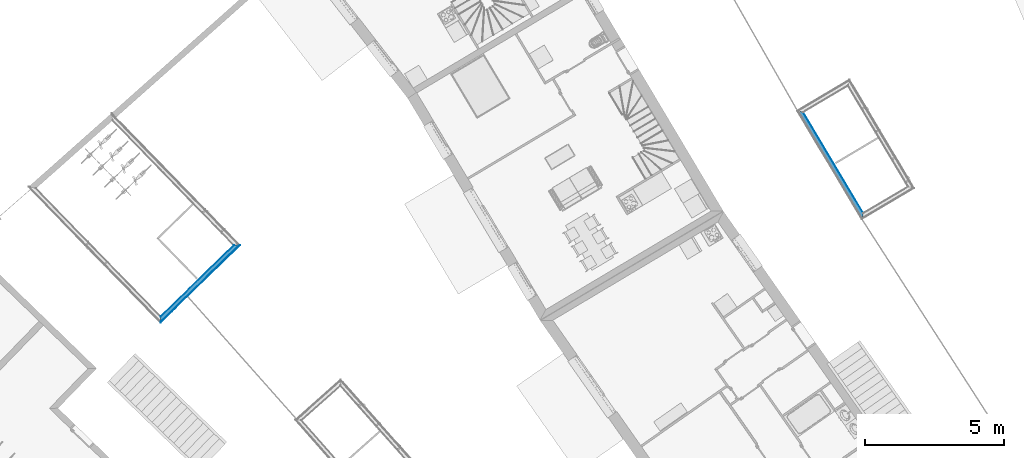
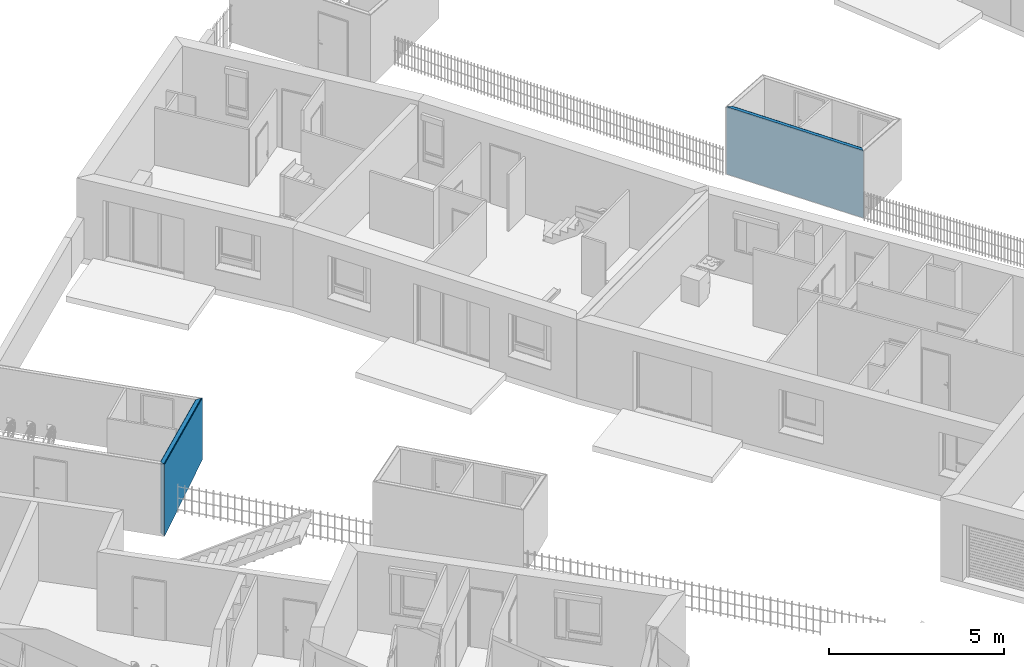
# One storey, part 123 of 195: 6 building element parts, 2 elements without a shape of their own.
"""IFC2X3 building model written with IfcOpenShell, lengths in metres."""

from ifc_helpers import new_model, entity, si_unit, converted_unit, derived_unit, money_unit, direction, frame, origin_with_axes, place, context, subcontext, project, spatial, polyline, outline, extrude, boolean, faceted_brep, material, type_object, element, aggregate, save


model = new_model("IFC2X3")

# Units and contexts
model_context = context("Model", 3, precision=1e-05, world=origin_with_axes(), true_north=direction((0.0, 1.0)))
body_context = subcontext(model_context, "Body", "Model", "MODEL_VIEW")
ifc_project = project(units=[si_unit("LENGTHUNIT", "METRE"), si_unit("AREAUNIT", "SQUARE_METRE"), si_unit("VOLUMEUNIT", "CUBIC_METRE"), converted_unit("PLANEANGLEUNIT", "DEGREE", entity("IfcPlaneAngleMeasure", 0.0174532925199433), si_unit("PLANEANGLEUNIT", "RADIAN"), dimensions=[0, 0, 0, 0, 0, 0, 0]), money_unit("CHF"), converted_unit("TIMEUNIT", "Year", entity("IfcTimeMeasure", 31557600.0), si_unit("TIMEUNIT", "SECOND"), dimensions=[0, 0, 1, 0, 0, 0, 0]), si_unit("MASSUNIT", "GRAM", prefix="KILO"), si_unit("THERMODYNAMICTEMPERATUREUNIT", "DEGREE_CELSIUS"), si_unit("LUMINOUSINTENSITYUNIT", "LUMEN"), si_unit("ENERGYUNIT", "JOULE", prefix="MEGA"), derived_unit("THERMALCONDUCTANCEUNIT", [(si_unit("POWERUNIT", "WATT"), 1), (si_unit("LENGTHUNIT", "METRE"), -1), (si_unit("THERMODYNAMICTEMPERATUREUNIT", "KELVIN"), -1)]), derived_unit("SPECIFICHEATCAPACITYUNIT", [(si_unit("ENERGYUNIT", "JOULE"), 1), (si_unit("MASSUNIT", "GRAM", prefix="KILO"), -1), (si_unit("THERMODYNAMICTEMPERATUREUNIT", "KELVIN"), -1)]), derived_unit("MASSDENSITYUNIT", [(si_unit("MASSUNIT", "GRAM", prefix="KILO"), 1), (si_unit("VOLUMEUNIT", "CUBIC_METRE"), -1)])], contexts=[model_context])

# Site, building, storey
site_placement = place(None, origin_with_axes())
site = spatial("IfcSite", under=ifc_project, at=site_placement, Name="Site", CompositionType="ELEMENT")
building_placement = place(site_placement, origin_with_axes())
building = spatial("IfcBuilding", under=site, at=building_placement, Name="Bâtiment", CompositionType="ELEMENT")
storey_placement = place(building_placement, origin_with_axes())
storey = spatial("IfcBuildingStorey", under=building, at=storey_placement, Name="rdc", CompositionType="ELEMENT", Elevation=0.0)

# Wall, building element parts
wall_type = type_object("IfcWallType", Name="1/Ossatur bois 160   non isol 160", PredefinedType="NOTDEFINED")
wall_1_placement = place(storey_placement, frame((9532.400157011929, -1052.50594906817, 57.7), z_axis=(0.0, 0.0, 1.0), x_axis=(-0.7170210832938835, -0.6970514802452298, 0.0)))
wall_1 = element("IfcWall", 1, at=wall_1_placement, inside=storey, type_object=wall_type, Name="Mur-110")
ifc_material_1 = material(Name="Sans Trame 296962763")
building_element_part_1_placement = place(wall_1_placement, origin_with_axes())
building_element_part_1 = element("IfcBuildingElementPart", 2, at=building_element_part_1_placement, material=ifc_material_1, Name="Sans Trame 296962763", context=body_context, shape_type="CSG", body=[
    boolean("DIFFERENCE", boolean("DIFFERENCE", boolean("DIFFERENCE", boolean("DIFFERENCE", extrude(outline(polyline([(0.0, -0.1599999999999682), (3.999999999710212, -0.1600000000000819), (3.999999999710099, -0.1500000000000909), (0.0, -0.1499999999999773), (0.0, -0.1599999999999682)])), origin_with_axes(), (0.0, 0.0, 1.0), 2.75), faceted_brep([(3.84999999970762, -0.1500000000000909, 0.0), (3.84999999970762, -0.1500000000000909, 2.501066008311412), (0.1500000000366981, -0.1499999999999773, 2.177357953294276), (0.1500000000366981, -0.1499999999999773, 0.0), (0.0, -0.1499999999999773, 0.0), (0.0, -0.1499999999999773, 2.75), (3.999999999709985, -0.1500000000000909, 2.75), (3.999999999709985, -0.1500000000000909, 0.0), (3.83999999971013, -0.1599999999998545, 0.0), (3.83999999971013, -0.1599999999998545, 2.500191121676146), (0.1600000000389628, -0.1599999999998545, 2.178232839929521), (0.1600000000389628, -0.1599999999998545, 0.0), (0.0, -0.1599999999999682, 0.0), (0.0, -0.1599999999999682, 2.75), (3.999999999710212, -0.1600000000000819, 2.75), (3.999999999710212, -0.1600000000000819, 0.0)], [[[0, 1, 2, 3, 4, 5, 6, 7]], [[8, 9, 1, 0]], [[2, 1, 9, 10]], [[3, 2, 10, 11]], [[3, 11, 12, 4]], [[5, 4, 12, 13]], [[5, 13, 14, 6]], [[14, 15, 7, 6]], [[8, 0, 7, 15]], [[9, 8, 15, 14, 13, 12, 11, 10]]])), faceted_brep([(3.969999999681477, -0.0300000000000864, 0.0), (3.969999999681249, -0.02999999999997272, 2.51156464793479), (0.03000000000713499, -0.02999999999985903, 2.166859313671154), (0.03000000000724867, -0.02999999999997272, 0.0), (0.0, -0.02999999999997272, 0.0), (0.0, -0.02999999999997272, 2.75), (3.999999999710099, -0.02999999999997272, 2.75), (3.999999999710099, -0.02999999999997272, 0.0), (3.84999999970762, -0.1500000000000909, 0.0), (3.84999999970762, -0.1500000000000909, 2.501066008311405), (0.1500000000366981, -0.1499999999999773, 2.177357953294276), (0.1500000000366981, -0.1499999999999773, 0.0), (0.0, -0.1499999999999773, 0.0), (0.0, -0.1499999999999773, 2.75), (3.999999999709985, -0.1500000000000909, 2.75), (3.999999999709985, -0.1500000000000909, 0.0)], [[[0, 1, 2, 3, 4, 5, 6, 7]], [[8, 9, 1, 0]], [[2, 1, 9, 10]], [[3, 2, 10, 11]], [[3, 11, 12, 4]], [[5, 4, 12, 13]], [[5, 13, 14, 6]], [[14, 15, 7, 6]], [[8, 0, 7, 15]], [[9, 8, 15, 14, 13, 12, 11, 10]]])), faceted_brep([(3.989999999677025, -0.009999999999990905, 0.0), (3.989999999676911, -0.01000000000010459, 2.513314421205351), (0.01000000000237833, -0.009999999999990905, 2.16510954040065), (0.01000000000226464, -0.009999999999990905, 0.0), (0.0, -0.009999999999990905, 0.0), (0.0, -0.009999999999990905, 2.75), (3.999999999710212, -0.009999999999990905, 2.75), (3.999999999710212, -0.009999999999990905, 0.0), (3.969999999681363, -0.02999999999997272, 0.0), (3.969999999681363, -0.02999999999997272, 2.511564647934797), (0.03000000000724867, -0.02999999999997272, 2.166859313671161), (0.03000000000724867, -0.02999999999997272, 0.0), (0.0, -0.02999999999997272, 0.0), (0.0, -0.02999999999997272, 2.75), (3.999999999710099, -0.02999999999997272, 2.75), (3.999999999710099, -0.02999999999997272, 0.0)], [[[0, 1, 2, 3, 4, 5, 6, 7]], [[8, 9, 1, 0]], [[2, 1, 9, 10]], [[3, 2, 10, 11]], [[3, 11, 12, 4]], [[5, 4, 12, 13]], [[5, 13, 14, 6]], [[14, 15, 7, 6]], [[8, 0, 7, 15]], [[9, 8, 15, 14, 13, 12, 11, 10]]])), faceted_brep([(3.999999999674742, 0.0, 2.514189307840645), (0.0, 0.0, 2.164234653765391), (0.0, 0.0, 2.75), (3.999999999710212, 0.0, 2.75), (3.989999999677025, -0.009999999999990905, 2.513314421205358), (0.01000000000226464, -0.009999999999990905, 2.16510954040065), (0.0, 0.0, 0.0), (0.0, -0.009999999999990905, 0.0), (0.0, -0.009999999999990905, 2.75), (3.999999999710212, -0.009999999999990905, 2.75), (3.999999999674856, 0.0, 0.0), (3.999999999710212, -0.009999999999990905, 0.0), (3.989999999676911, -0.009999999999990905, 0.0), (0.01000000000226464, -0.009999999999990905, 0.0)], [[[0, 1, 2, 3]], [[1, 0, 4, 5]], [[1, 6, 7, 8, 2]], [[2, 8, 9, 3]], [[10, 0, 3, 9, 11]], [[12, 4, 0, 10]], [[4, 12, 11, 9, 8, 7, 13, 5]], [[6, 1, 5, 13]], [[6, 13, 7]], [[12, 10, 11]]])),
])
ifc_material_2 = material(Name="Lame d'air 323202302")
building_element_part_2_placement = place(wall_1_placement, origin_with_axes())
building_element_part_2 = element("IfcBuildingElementPart", 3, at=building_element_part_2_placement, material=ifc_material_2, Name="Lame d'air 323202302", context=body_context, shape_type="CSG", body=[
    boolean("DIFFERENCE", boolean("DIFFERENCE", boolean("DIFFERENCE", boolean("DIFFERENCE", extrude(outline(polyline([(0.0, -0.02999999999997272), (3.999999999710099, -0.02999999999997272), (3.999999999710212, -0.009999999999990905), (0.0, -0.009999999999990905), (0.0, -0.02999999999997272)])), origin_with_axes(), (0.0, 0.0, 1.0), 2.75), faceted_brep([(3.84999999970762, -0.1500000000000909, 0.0), (3.84999999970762, -0.1500000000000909, 2.501066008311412), (0.1500000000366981, -0.1499999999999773, 2.177357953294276), (0.1500000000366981, -0.1499999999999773, 0.0), (0.0, -0.1499999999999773, 0.0), (0.0, -0.1499999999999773, 2.75), (3.999999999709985, -0.1500000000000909, 2.75), (3.999999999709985, -0.1500000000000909, 0.0), (3.83999999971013, -0.1599999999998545, 0.0), (3.83999999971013, -0.1599999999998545, 2.500191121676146), (0.1600000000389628, -0.1599999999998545, 2.178232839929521), (0.1600000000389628, -0.1599999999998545, 0.0), (0.0, -0.1599999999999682, 0.0), (0.0, -0.1599999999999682, 2.75), (3.999999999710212, -0.1600000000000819, 2.75), (3.999999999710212, -0.1600000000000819, 0.0)], [[[0, 1, 2, 3, 4, 5, 6, 7]], [[8, 9, 1, 0]], [[2, 1, 9, 10]], [[3, 2, 10, 11]], [[3, 11, 12, 4]], [[5, 4, 12, 13]], [[5, 13, 14, 6]], [[14, 15, 7, 6]], [[8, 0, 7, 15]], [[9, 8, 15, 14, 13, 12, 11, 10]]])), faceted_brep([(3.969999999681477, -0.0300000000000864, 0.0), (3.969999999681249, -0.02999999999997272, 2.51156464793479), (0.03000000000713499, -0.02999999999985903, 2.166859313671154), (0.03000000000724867, -0.02999999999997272, 0.0), (0.0, -0.02999999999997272, 0.0), (0.0, -0.02999999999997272, 2.75), (3.999999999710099, -0.02999999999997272, 2.75), (3.999999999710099, -0.02999999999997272, 0.0), (3.84999999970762, -0.1500000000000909, 0.0), (3.84999999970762, -0.1500000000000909, 2.501066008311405), (0.1500000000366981, -0.1499999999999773, 2.177357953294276), (0.1500000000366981, -0.1499999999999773, 0.0), (0.0, -0.1499999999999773, 0.0), (0.0, -0.1499999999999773, 2.75), (3.999999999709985, -0.1500000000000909, 2.75), (3.999999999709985, -0.1500000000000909, 0.0)], [[[0, 1, 2, 3, 4, 5, 6, 7]], [[8, 9, 1, 0]], [[2, 1, 9, 10]], [[3, 2, 10, 11]], [[3, 11, 12, 4]], [[5, 4, 12, 13]], [[5, 13, 14, 6]], [[14, 15, 7, 6]], [[8, 0, 7, 15]], [[9, 8, 15, 14, 13, 12, 11, 10]]])), faceted_brep([(3.989999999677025, -0.009999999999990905, 0.0), (3.989999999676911, -0.01000000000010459, 2.513314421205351), (0.01000000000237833, -0.009999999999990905, 2.16510954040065), (0.01000000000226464, -0.009999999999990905, 0.0), (0.0, -0.009999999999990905, 0.0), (0.0, -0.009999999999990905, 2.75), (3.999999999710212, -0.009999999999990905, 2.75), (3.999999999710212, -0.009999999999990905, 0.0), (3.969999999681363, -0.02999999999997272, 0.0), (3.969999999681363, -0.02999999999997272, 2.511564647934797), (0.03000000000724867, -0.02999999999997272, 2.166859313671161), (0.03000000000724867, -0.02999999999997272, 0.0), (0.0, -0.02999999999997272, 0.0), (0.0, -0.02999999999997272, 2.75), (3.999999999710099, -0.02999999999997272, 2.75), (3.999999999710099, -0.02999999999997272, 0.0)], [[[0, 1, 2, 3, 4, 5, 6, 7]], [[8, 9, 1, 0]], [[2, 1, 9, 10]], [[3, 2, 10, 11]], [[3, 11, 12, 4]], [[5, 4, 12, 13]], [[5, 13, 14, 6]], [[14, 15, 7, 6]], [[8, 0, 7, 15]], [[9, 8, 15, 14, 13, 12, 11, 10]]])), faceted_brep([(3.999999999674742, 0.0, 2.514189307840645), (0.0, 0.0, 2.164234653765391), (0.0, 0.0, 2.75), (3.999999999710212, 0.0, 2.75), (3.989999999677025, -0.009999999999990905, 2.513314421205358), (0.01000000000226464, -0.009999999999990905, 2.16510954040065), (0.0, 0.0, 0.0), (0.0, -0.009999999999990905, 0.0), (0.0, -0.009999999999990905, 2.75), (3.999999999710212, -0.009999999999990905, 2.75), (3.999999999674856, 0.0, 0.0), (3.999999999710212, -0.009999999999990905, 0.0), (3.989999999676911, -0.009999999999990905, 0.0), (0.01000000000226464, -0.009999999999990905, 0.0)], [[[0, 1, 2, 3]], [[1, 0, 4, 5]], [[1, 6, 7, 8, 2]], [[2, 8, 9, 3]], [[10, 0, 3, 9, 11]], [[12, 4, 0, 10]], [[4, 12, 11, 9, 8, 7, 13, 5]], [[6, 1, 5, 13]], [[6, 13, 7]], [[12, 10, 11]]])),
])
ifc_material_3 = material(Name="Lame d'air 275581439")
building_element_part_3_placement = place(wall_1_placement, origin_with_axes())
building_element_part_3 = element("IfcBuildingElementPart", 4, at=building_element_part_3_placement, material=ifc_material_3, Name="Lame d'air 275581439", context=body_context, shape_type="CSG", body=[
    boolean("DIFFERENCE", boolean("DIFFERENCE", boolean("DIFFERENCE", boolean("DIFFERENCE", extrude(outline(polyline([(0.0, -0.1499999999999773), (3.999999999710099, -0.1500000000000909), (3.999999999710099, -0.02999999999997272), (0.0, -0.02999999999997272), (0.0, -0.1499999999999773)])), origin_with_axes(), (0.0, 0.0, 1.0), 2.75), faceted_brep([(3.84999999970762, -0.1500000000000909, 0.0), (3.84999999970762, -0.1500000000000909, 2.501066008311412), (0.1500000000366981, -0.1499999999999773, 2.177357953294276), (0.1500000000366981, -0.1499999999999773, 0.0), (0.0, -0.1499999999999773, 0.0), (0.0, -0.1499999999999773, 2.75), (3.999999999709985, -0.1500000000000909, 2.75), (3.999999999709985, -0.1500000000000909, 0.0), (3.83999999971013, -0.1599999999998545, 0.0), (3.83999999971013, -0.1599999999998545, 2.500191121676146), (0.1600000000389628, -0.1599999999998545, 2.178232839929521), (0.1600000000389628, -0.1599999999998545, 0.0), (0.0, -0.1599999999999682, 0.0), (0.0, -0.1599999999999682, 2.75), (3.999999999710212, -0.1600000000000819, 2.75), (3.999999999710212, -0.1600000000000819, 0.0)], [[[0, 1, 2, 3, 4, 5, 6, 7]], [[8, 9, 1, 0]], [[2, 1, 9, 10]], [[3, 2, 10, 11]], [[3, 11, 12, 4]], [[5, 4, 12, 13]], [[5, 13, 14, 6]], [[14, 15, 7, 6]], [[8, 0, 7, 15]], [[9, 8, 15, 14, 13, 12, 11, 10]]])), faceted_brep([(3.969999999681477, -0.0300000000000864, 0.0), (3.969999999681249, -0.02999999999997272, 2.51156464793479), (0.03000000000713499, -0.02999999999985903, 2.166859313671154), (0.03000000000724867, -0.02999999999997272, 0.0), (0.0, -0.02999999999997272, 0.0), (0.0, -0.02999999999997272, 2.75), (3.999999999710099, -0.02999999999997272, 2.75), (3.999999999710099, -0.02999999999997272, 0.0), (3.84999999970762, -0.1500000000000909, 0.0), (3.84999999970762, -0.1500000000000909, 2.501066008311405), (0.1500000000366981, -0.1499999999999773, 2.177357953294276), (0.1500000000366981, -0.1499999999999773, 0.0), (0.0, -0.1499999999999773, 0.0), (0.0, -0.1499999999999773, 2.75), (3.999999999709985, -0.1500000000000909, 2.75), (3.999999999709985, -0.1500000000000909, 0.0)], [[[0, 1, 2, 3, 4, 5, 6, 7]], [[8, 9, 1, 0]], [[2, 1, 9, 10]], [[3, 2, 10, 11]], [[3, 11, 12, 4]], [[5, 4, 12, 13]], [[5, 13, 14, 6]], [[14, 15, 7, 6]], [[8, 0, 7, 15]], [[9, 8, 15, 14, 13, 12, 11, 10]]])), faceted_brep([(3.989999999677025, -0.009999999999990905, 0.0), (3.989999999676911, -0.01000000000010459, 2.513314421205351), (0.01000000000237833, -0.009999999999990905, 2.16510954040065), (0.01000000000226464, -0.009999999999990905, 0.0), (0.0, -0.009999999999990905, 0.0), (0.0, -0.009999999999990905, 2.75), (3.999999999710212, -0.009999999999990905, 2.75), (3.999999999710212, -0.009999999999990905, 0.0), (3.969999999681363, -0.02999999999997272, 0.0), (3.969999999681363, -0.02999999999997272, 2.511564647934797), (0.03000000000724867, -0.02999999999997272, 2.166859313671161), (0.03000000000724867, -0.02999999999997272, 0.0), (0.0, -0.02999999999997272, 0.0), (0.0, -0.02999999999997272, 2.75), (3.999999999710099, -0.02999999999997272, 2.75), (3.999999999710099, -0.02999999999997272, 0.0)], [[[0, 1, 2, 3, 4, 5, 6, 7]], [[8, 9, 1, 0]], [[2, 1, 9, 10]], [[3, 2, 10, 11]], [[3, 11, 12, 4]], [[5, 4, 12, 13]], [[5, 13, 14, 6]], [[14, 15, 7, 6]], [[8, 0, 7, 15]], [[9, 8, 15, 14, 13, 12, 11, 10]]])), faceted_brep([(3.999999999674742, 0.0, 2.514189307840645), (0.0, 0.0, 2.164234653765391), (0.0, 0.0, 2.75), (3.999999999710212, 0.0, 2.75), (3.989999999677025, -0.009999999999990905, 2.513314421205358), (0.01000000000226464, -0.009999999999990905, 2.16510954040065), (0.0, 0.0, 0.0), (0.0, -0.009999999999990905, 0.0), (0.0, -0.009999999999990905, 2.75), (3.999999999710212, -0.009999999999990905, 2.75), (3.999999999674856, 0.0, 0.0), (3.999999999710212, -0.009999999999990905, 0.0), (3.989999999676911, -0.009999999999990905, 0.0), (0.01000000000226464, -0.009999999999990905, 0.0)], [[[0, 1, 2, 3]], [[1, 0, 4, 5]], [[1, 6, 7, 8, 2]], [[2, 8, 9, 3]], [[10, 0, 3, 9, 11]], [[12, 4, 0, 10]], [[4, 12, 11, 9, 8, 7, 13, 5]], [[6, 1, 5, 13]], [[6, 13, 7]], [[12, 10, 11]]])),
])
ifc_material_4 = material(Name="Hachure solide 323202122")
building_element_part_4_placement = place(wall_1_placement, origin_with_axes())
building_element_part_4 = element("IfcBuildingElementPart", 5, at=building_element_part_4_placement, material=ifc_material_4, Name="Hachure solide 323202122", context=body_context, shape_type="CSG", body=[
    boolean("DIFFERENCE", boolean("DIFFERENCE", boolean("DIFFERENCE", boolean("DIFFERENCE", extrude(outline(polyline([(0.0, -0.009999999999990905), (3.999999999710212, -0.009999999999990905), (3.999999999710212, 0.0), (0.0, 0.0), (0.0, -0.009999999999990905)])), origin_with_axes(), (0.0, 0.0, 1.0), 2.75), faceted_brep([(3.84999999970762, -0.1500000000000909, 0.0), (3.84999999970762, -0.1500000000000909, 2.501066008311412), (0.1500000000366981, -0.1499999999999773, 2.177357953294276), (0.1500000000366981, -0.1499999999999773, 0.0), (0.0, -0.1499999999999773, 0.0), (0.0, -0.1499999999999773, 2.75), (3.999999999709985, -0.1500000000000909, 2.75), (3.999999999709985, -0.1500000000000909, 0.0), (3.83999999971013, -0.1599999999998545, 0.0), (3.83999999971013, -0.1599999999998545, 2.500191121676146), (0.1600000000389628, -0.1599999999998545, 2.178232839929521), (0.1600000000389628, -0.1599999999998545, 0.0), (0.0, -0.1599999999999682, 0.0), (0.0, -0.1599999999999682, 2.75), (3.999999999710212, -0.1600000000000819, 2.75), (3.999999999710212, -0.1600000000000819, 0.0)], [[[0, 1, 2, 3, 4, 5, 6, 7]], [[8, 9, 1, 0]], [[2, 1, 9, 10]], [[3, 2, 10, 11]], [[3, 11, 12, 4]], [[5, 4, 12, 13]], [[5, 13, 14, 6]], [[14, 15, 7, 6]], [[8, 0, 7, 15]], [[9, 8, 15, 14, 13, 12, 11, 10]]])), faceted_brep([(3.969999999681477, -0.0300000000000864, 0.0), (3.969999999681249, -0.02999999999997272, 2.51156464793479), (0.03000000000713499, -0.02999999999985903, 2.166859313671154), (0.03000000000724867, -0.02999999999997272, 0.0), (0.0, -0.02999999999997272, 0.0), (0.0, -0.02999999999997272, 2.75), (3.999999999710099, -0.02999999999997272, 2.75), (3.999999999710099, -0.02999999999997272, 0.0), (3.84999999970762, -0.1500000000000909, 0.0), (3.84999999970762, -0.1500000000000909, 2.501066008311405), (0.1500000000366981, -0.1499999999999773, 2.177357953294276), (0.1500000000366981, -0.1499999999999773, 0.0), (0.0, -0.1499999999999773, 0.0), (0.0, -0.1499999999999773, 2.75), (3.999999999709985, -0.1500000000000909, 2.75), (3.999999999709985, -0.1500000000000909, 0.0)], [[[0, 1, 2, 3, 4, 5, 6, 7]], [[8, 9, 1, 0]], [[2, 1, 9, 10]], [[3, 2, 10, 11]], [[3, 11, 12, 4]], [[5, 4, 12, 13]], [[5, 13, 14, 6]], [[14, 15, 7, 6]], [[8, 0, 7, 15]], [[9, 8, 15, 14, 13, 12, 11, 10]]])), faceted_brep([(3.989999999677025, -0.009999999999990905, 0.0), (3.989999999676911, -0.01000000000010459, 2.513314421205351), (0.01000000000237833, -0.009999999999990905, 2.16510954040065), (0.01000000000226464, -0.009999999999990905, 0.0), (0.0, -0.009999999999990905, 0.0), (0.0, -0.009999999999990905, 2.75), (3.999999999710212, -0.009999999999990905, 2.75), (3.999999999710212, -0.009999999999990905, 0.0), (3.969999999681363, -0.02999999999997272, 0.0), (3.969999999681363, -0.02999999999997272, 2.511564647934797), (0.03000000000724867, -0.02999999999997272, 2.166859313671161), (0.03000000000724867, -0.02999999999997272, 0.0), (0.0, -0.02999999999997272, 0.0), (0.0, -0.02999999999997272, 2.75), (3.999999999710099, -0.02999999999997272, 2.75), (3.999999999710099, -0.02999999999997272, 0.0)], [[[0, 1, 2, 3, 4, 5, 6, 7]], [[8, 9, 1, 0]], [[2, 1, 9, 10]], [[3, 2, 10, 11]], [[3, 11, 12, 4]], [[5, 4, 12, 13]], [[5, 13, 14, 6]], [[14, 15, 7, 6]], [[8, 0, 7, 15]], [[9, 8, 15, 14, 13, 12, 11, 10]]])), faceted_brep([(3.999999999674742, 0.0, 2.514189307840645), (0.0, 0.0, 2.164234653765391), (0.0, 0.0, 2.75), (3.999999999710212, 0.0, 2.75), (3.989999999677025, -0.009999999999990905, 2.513314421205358), (0.01000000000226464, -0.009999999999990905, 2.16510954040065), (0.0, 0.0, 0.0), (0.0, -0.009999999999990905, 0.0), (0.0, -0.009999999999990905, 2.75), (3.999999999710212, -0.009999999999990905, 2.75), (3.999999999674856, 0.0, 0.0), (3.999999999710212, -0.009999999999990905, 0.0), (3.989999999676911, -0.009999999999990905, 0.0), (0.01000000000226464, -0.009999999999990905, 0.0)], [[[0, 1, 2, 3]], [[1, 0, 4, 5]], [[1, 6, 7, 8, 2]], [[2, 8, 9, 3]], [[10, 0, 3, 9, 11]], [[12, 4, 0, 10]], [[4, 12, 11, 9, 8, 7, 13, 5]], [[6, 1, 5, 13]], [[6, 13, 7]], [[12, 10, 11]]])),
])
aggregate(wall_1, [building_element_part_1, building_element_part_2, building_element_part_3, building_element_part_4])

wall_2_placement = place(storey_placement, frame((9554.820231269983, -1051.563718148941, 57.7), z_axis=(0.0, 0.0, 1.0), x_axis=(-0.5115364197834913, 0.8592615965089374, 0.0)))
wall_2 = element("IfcWall", 6, at=wall_2_placement, inside=storey, type_object=wall_type, Name="Mur-108")
building_element_part_5_placement = place(wall_2_placement, origin_with_axes())
building_element_part_5 = element("IfcBuildingElementPart", 7, at=building_element_part_5_placement, material=ifc_material_1, Name="Sans Trame 296962763", context=body_context, shape_type="CSG", body=[
    boolean("DIFFERENCE", boolean("DIFFERENCE", boolean("DIFFERENCE", boolean("DIFFERENCE", extrude(outline(polyline([(-0.0001436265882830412, -0.1600000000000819), (4.552099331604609, -0.1600000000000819), (4.552099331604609, -0.1500000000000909), (-0.0001436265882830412, -0.1500000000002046), (-0.0001436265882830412, -0.1600000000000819)])), origin_with_axes(), (0.0, 0.0, 1.0), 2.75), faceted_brep([(4.392099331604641, -0.1600000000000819, 2.342443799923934), (4.392099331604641, -0.1600000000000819, 0.0), (4.552099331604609, -0.1600000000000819, 0.0), (4.552099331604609, -0.1600000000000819, 2.75), (-0.0001436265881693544, -0.1600000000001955, 2.75), (-0.0001436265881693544, -0.1600000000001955, 0.0), (0.1598564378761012, -0.1600000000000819, 0.0), (0.1598564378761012, -0.1600000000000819, 2.342111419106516), (4.402099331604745, -0.1500000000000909, 2.343319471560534), (4.402099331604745, -0.1500000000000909, 0.0), (4.552099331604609, -0.1500000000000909, 0.0), (4.552099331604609, -0.1500000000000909, 2.75), (-0.0001436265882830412, -0.1500000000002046, 2.75), (-0.0001436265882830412, -0.1500000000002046, 0.0), (0.1498654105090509, -0.1500000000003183, 0.0), (0.1498654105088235, -0.1500000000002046, 2.342985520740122)], [[[0, 1, 2, 3, 4, 5, 6, 7]], [[1, 0, 8, 9]], [[1, 9, 10, 2]], [[3, 2, 10, 11]], [[12, 4, 3, 11]], [[12, 13, 5, 4]], [[14, 6, 5, 13]], [[7, 6, 14, 15]], [[0, 7, 15, 8]], [[15, 14, 13, 12, 11, 10, 9, 8]]])), faceted_brep([(4.402099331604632, -0.1500000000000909, 2.343319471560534), (4.402099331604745, -0.1500000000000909, 0.0), (4.552099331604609, -0.1500000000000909, 0.0), (4.552099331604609, -0.1500000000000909, 2.75), (-0.0001436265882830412, -0.1500000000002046, 2.75), (-0.0001436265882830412, -0.1500000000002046, 0.0), (0.1498654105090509, -0.1500000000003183, 0.0), (0.1498654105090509, -0.1500000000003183, 2.342985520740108), (4.52209933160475, -0.03000000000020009, 2.353827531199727), (4.52209933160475, -0.03000000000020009, 0.0), (4.552099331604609, -0.03000000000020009, 0.0), (4.552099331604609, -0.03000000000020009, 2.75), (-0.0001436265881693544, -0.03000000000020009, 2.75), (-0.0001436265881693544, -0.03000000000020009, 0.0), (0.02997308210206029, -0.0300000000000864, 0.0), (0.02997308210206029, -0.03000000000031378, 2.353474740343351)], [[[0, 1, 2, 3, 4, 5, 6, 7]], [[1, 0, 8, 9]], [[1, 9, 10, 2]], [[3, 2, 10, 11]], [[12, 4, 3, 11]], [[12, 13, 5, 4]], [[14, 6, 5, 13]], [[7, 6, 14, 15]], [[0, 7, 15, 8]], [[15, 14, 13, 12, 11, 10, 9, 8]]])), faceted_brep([(4.52209933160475, -0.03000000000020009, 2.353827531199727), (4.52209933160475, -0.03000000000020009, 0.0), (4.552099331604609, -0.03000000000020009, 0.0), (4.552099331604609, -0.03000000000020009, 2.75), (-0.0001436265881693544, -0.03000000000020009, 2.75), (-0.0001436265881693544, -0.03000000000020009, 0.0), (0.02997308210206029, -0.0300000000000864, 0.0), (0.02997308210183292, -0.03000000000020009, 2.353474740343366), (4.542099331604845, -0.01000000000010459, 2.355578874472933), (4.542099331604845, -0.01000000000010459, 0.0), (4.552099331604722, -0.01000000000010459, 0.0), (4.552099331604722, -0.01000000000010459, 2.75), (-0.0001436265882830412, -0.01000000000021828, 2.75), (-0.0001436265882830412, -0.01000000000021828, 0.0), (0.009991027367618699, -0.01000000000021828, 0.0), (0.009991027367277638, -0.009999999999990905, 2.355222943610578)], [[[0, 1, 2, 3, 4, 5, 6, 7]], [[1, 0, 8, 9]], [[1, 9, 10, 2]], [[3, 2, 10, 11]], [[12, 4, 3, 11]], [[12, 13, 5, 4]], [[14, 6, 5, 13]], [[7, 6, 14, 15]], [[0, 7, 15, 8]], [[15, 14, 13, 12, 11, 10, 9, 8]]])), faceted_brep([(4.542099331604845, -0.01000000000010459, 2.355578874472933), (4.542099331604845, -0.01000000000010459, 0.0), (4.552099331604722, -0.01000000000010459, 0.0), (4.552099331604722, -0.01000000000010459, 2.75), (-0.0001436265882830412, -0.01000000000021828, 2.75), (-0.0001436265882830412, -0.01000000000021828, 0.0), (0.009991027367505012, -0.01000000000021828, 0.0), (0.009991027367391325, -0.01000000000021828, 2.35522294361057), (4.552099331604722, 0.0, 2.356454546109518), (4.552099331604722, 0.0, 0.0), (4.552099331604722, 0.0, 2.75), (-0.0001436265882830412, 0.0, 2.75), (-0.0001436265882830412, 0.0, 0.0), (0.0, 0.0, 0.0), (0.0, 0.0, 2.356097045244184)], [[[0, 1, 2, 3, 4, 5, 6, 7]], [[1, 0, 8, 9]], [[1, 9, 2]], [[9, 8, 10, 3, 2]], [[11, 4, 3, 10]], [[11, 12, 5, 4]], [[13, 6, 5, 12]], [[7, 6, 13, 14]], [[0, 7, 14, 8]], [[14, 13, 12, 11, 10, 8]]])),
])
building_element_part_6_placement = place(wall_2_placement, origin_with_axes())
building_element_part_6 = element("IfcBuildingElementPart", 8, at=building_element_part_6_placement, material=ifc_material_3, Name="Lame d'air 275581439", context=body_context, shape_type="CSG", body=[
    boolean("DIFFERENCE", boolean("DIFFERENCE", boolean("DIFFERENCE", boolean("DIFFERENCE", extrude(outline(polyline([(-0.0001436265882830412, -0.1500000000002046), (4.552099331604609, -0.1500000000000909), (4.552099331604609, -0.0300000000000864), (-0.0001436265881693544, -0.0300000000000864), (-0.0001436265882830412, -0.1500000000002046)])), origin_with_axes(), (0.0, 0.0, 1.0), 2.75), faceted_brep([(4.392099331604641, -0.1600000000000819, 2.342443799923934), (4.392099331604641, -0.1600000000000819, 0.0), (4.552099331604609, -0.1600000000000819, 0.0), (4.552099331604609, -0.1600000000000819, 2.75), (-0.0001436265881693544, -0.1600000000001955, 2.75), (-0.0001436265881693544, -0.1600000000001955, 0.0), (0.1598564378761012, -0.1600000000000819, 0.0), (0.1598564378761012, -0.1600000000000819, 2.342111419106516), (4.402099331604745, -0.1500000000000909, 2.343319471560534), (4.402099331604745, -0.1500000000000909, 0.0), (4.552099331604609, -0.1500000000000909, 0.0), (4.552099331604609, -0.1500000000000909, 2.75), (-0.0001436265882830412, -0.1500000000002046, 2.75), (-0.0001436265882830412, -0.1500000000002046, 0.0), (0.1498654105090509, -0.1500000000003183, 0.0), (0.1498654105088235, -0.1500000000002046, 2.342985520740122)], [[[0, 1, 2, 3, 4, 5, 6, 7]], [[1, 0, 8, 9]], [[1, 9, 10, 2]], [[3, 2, 10, 11]], [[12, 4, 3, 11]], [[12, 13, 5, 4]], [[14, 6, 5, 13]], [[7, 6, 14, 15]], [[0, 7, 15, 8]], [[15, 14, 13, 12, 11, 10, 9, 8]]])), faceted_brep([(4.402099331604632, -0.1500000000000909, 2.343319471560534), (4.402099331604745, -0.1500000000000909, 0.0), (4.552099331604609, -0.1500000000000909, 0.0), (4.552099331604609, -0.1500000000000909, 2.75), (-0.0001436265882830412, -0.1500000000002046, 2.75), (-0.0001436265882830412, -0.1500000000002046, 0.0), (0.1498654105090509, -0.1500000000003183, 0.0), (0.1498654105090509, -0.1500000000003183, 2.342985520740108), (4.52209933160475, -0.03000000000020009, 2.353827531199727), (4.52209933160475, -0.03000000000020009, 0.0), (4.552099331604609, -0.03000000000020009, 0.0), (4.552099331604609, -0.03000000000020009, 2.75), (-0.0001436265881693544, -0.03000000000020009, 2.75), (-0.0001436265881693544, -0.03000000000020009, 0.0), (0.02997308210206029, -0.0300000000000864, 0.0), (0.02997308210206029, -0.03000000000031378, 2.353474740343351)], [[[0, 1, 2, 3, 4, 5, 6, 7]], [[1, 0, 8, 9]], [[1, 9, 10, 2]], [[3, 2, 10, 11]], [[12, 4, 3, 11]], [[12, 13, 5, 4]], [[14, 6, 5, 13]], [[7, 6, 14, 15]], [[0, 7, 15, 8]], [[15, 14, 13, 12, 11, 10, 9, 8]]])), faceted_brep([(4.52209933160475, -0.03000000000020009, 2.353827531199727), (4.52209933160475, -0.03000000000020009, 0.0), (4.552099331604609, -0.03000000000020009, 0.0), (4.552099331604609, -0.03000000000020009, 2.75), (-0.0001436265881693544, -0.03000000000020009, 2.75), (-0.0001436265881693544, -0.03000000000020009, 0.0), (0.02997308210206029, -0.0300000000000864, 0.0), (0.02997308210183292, -0.03000000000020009, 2.353474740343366), (4.542099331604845, -0.01000000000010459, 2.355578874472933), (4.542099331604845, -0.01000000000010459, 0.0), (4.552099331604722, -0.01000000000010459, 0.0), (4.552099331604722, -0.01000000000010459, 2.75), (-0.0001436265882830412, -0.01000000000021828, 2.75), (-0.0001436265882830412, -0.01000000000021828, 0.0), (0.009991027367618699, -0.01000000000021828, 0.0), (0.009991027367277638, -0.009999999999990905, 2.355222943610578)], [[[0, 1, 2, 3, 4, 5, 6, 7]], [[1, 0, 8, 9]], [[1, 9, 10, 2]], [[3, 2, 10, 11]], [[12, 4, 3, 11]], [[12, 13, 5, 4]], [[14, 6, 5, 13]], [[7, 6, 14, 15]], [[0, 7, 15, 8]], [[15, 14, 13, 12, 11, 10, 9, 8]]])), faceted_brep([(4.542099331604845, -0.01000000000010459, 2.355578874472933), (4.542099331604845, -0.01000000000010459, 0.0), (4.552099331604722, -0.01000000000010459, 0.0), (4.552099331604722, -0.01000000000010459, 2.75), (-0.0001436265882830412, -0.01000000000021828, 2.75), (-0.0001436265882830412, -0.01000000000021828, 0.0), (0.009991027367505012, -0.01000000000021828, 0.0), (0.009991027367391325, -0.01000000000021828, 2.35522294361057), (4.552099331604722, 0.0, 2.356454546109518), (4.552099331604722, 0.0, 0.0), (4.552099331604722, 0.0, 2.75), (-0.0001436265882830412, 0.0, 2.75), (-0.0001436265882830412, 0.0, 0.0), (0.0, 0.0, 0.0), (0.0, 0.0, 2.356097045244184)], [[[0, 1, 2, 3, 4, 5, 6, 7]], [[1, 0, 8, 9]], [[1, 9, 2]], [[9, 8, 10, 3, 2]], [[11, 4, 3, 10]], [[11, 12, 5, 4]], [[13, 6, 5, 12]], [[7, 6, 13, 14]], [[0, 7, 14, 8]], [[14, 13, 12, 11, 10, 8]]])),
])
aggregate(wall_2, [building_element_part_5, building_element_part_6])

save(model, "model.ifc")
